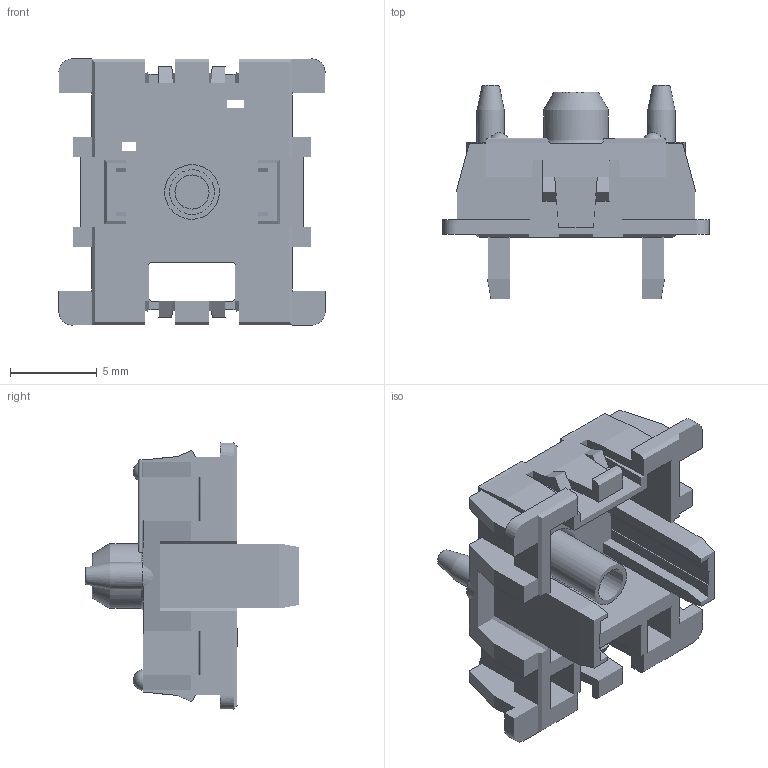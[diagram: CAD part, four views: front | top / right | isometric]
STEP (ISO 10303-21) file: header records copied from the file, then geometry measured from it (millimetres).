
FILE_DESCRIPTION(/* description */ ('STEP AP242 Edition 2','CAx-IF Rec.Pracs.---Representation and Presentation of Product Manufacturing Information (PMI)---4.0---2014-10-13','CAx-IF Rec.Pracs.---3D Tessellated Geometry---0.4---2014-09-14','2;1','CAx-IF Rec.Pracs.---User Defined Attributes---1.5---2016-08-15'),/* implementation_level */ '2;1');
FILE_NAME(/* name */ 'Assembly 1 - Part 103',/* time_stamp */ '2026-03-29T21:14:56Z',/* author */ (''),/* organization */ (''),/* preprocessor_version */ 'ST-DEVELOPER v20',/* originating_system */ 'ONSHAPE BY PTC INC, 1.212',/* authorisation */ ' ');
FILE_SCHEMA (('AP242_MANAGED_MODEL_BASED_3D_ENGINEERING_MIM_LF { 1 0 10303 442 3 1 4 }'));
Length unit declared in the file: metre
Products named in the file (1): Part 103
Bounding box: 15.35 x 12.3 x 15.35 mm (x, y, z)
Surface area: 1418 mm2 (no closed solid volume)
Topology: 0 solids, 1 shells, 1 faces, 0 edges, 0 vertices
Faces by surface type: other 1
Entity records: 31 total; most frequent: DIRECTION 2, SHAPE_REPRESENTATION_RELATIONSHIP 1, TESSELLATED_SHAPE_REPRESENTATION 1, STYLED_ITEM 1, PRESENTATION_STYLE_ASSIGNMENT 1, SURFACE_STYLE_USAGE 1, SURFACE_SIDE_STYLE 1, SURFACE_STYLE_FILL_AREA 1
